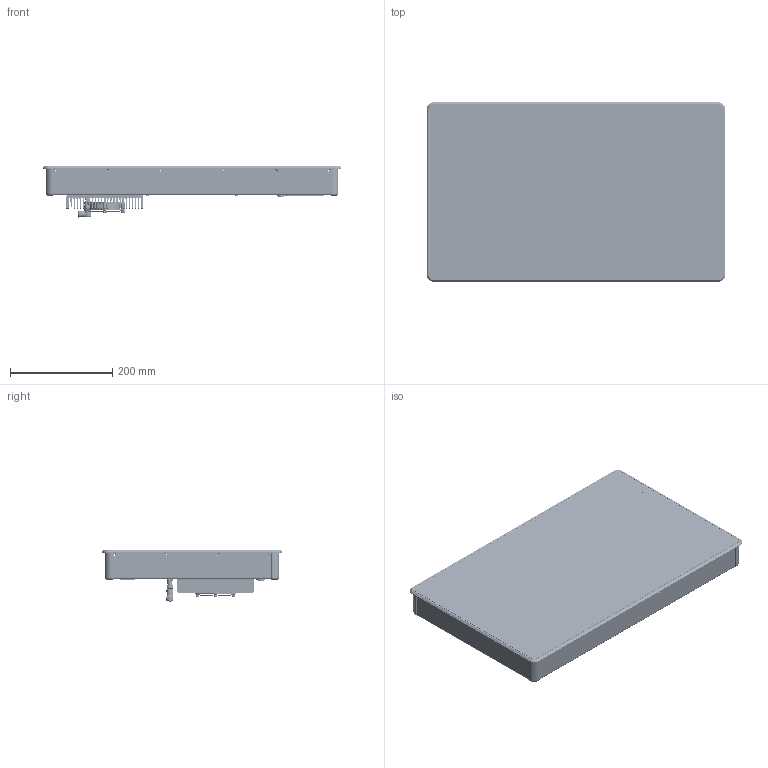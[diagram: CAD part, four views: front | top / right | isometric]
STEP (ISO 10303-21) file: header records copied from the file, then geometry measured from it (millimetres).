
FILE_DESCRIPTION(/* description */ (''),/* implementation_level */ '2;1');
FILE_NAME(/* name */ 'D:\Modelle vereinfacht\notion.D\notion.D3\778-41957-00\778-41957-00_EXTERN.stp',/* time_stamp */ '2025-05-26T13:02:29+02:00',/* author */ ('Blessing'),/* organization */ (''),/* preprocessor_version */ 'ST-DEVELOPER v18.1',/* originating_system */ 'Autodesk Inventor 2021',/* authorisation */ '');
FILE_SCHEMA (('AUTOMOTIVE_DESIGN { 1 0 10303 214 3 1 1 }'));
Products named in the file (4): Baugruppe1; 778-41957-00_Standard; 64-025-080_IPT_000; 778-90171_IAM_000_Shrinkwrap_1
Assembly tree (3 placements, depth 2):
  Baugruppe1
    778-41957-00_Standard
    64-025-080_IPT_000
    778-90171_IAM_000_Shrinkwrap_1
Bounding box: 584.4 x 352 x 100.7 mm (x, y, z)
Volume: 10695339.4 mm3; surface area: 1063272.2 mm2
Topology: 12 solids, 92 shells, 10040 faces, 27713 edges, 17955 vertices
Faces by surface type: plane 5814, cylinder 2487, bspline 1153, cone 471, torus 90, sphere 25
Full cylindrical faces by diameter (mm): 0.457 x1, 1 x3, 1.1 x3, 1.2 x30, 1.4 x3, 2.156 x2, 2.2 x2, 2.459 x28, 2.5 x2, 2.794 x2, 2.8 x6, 2.9 x2, 2.91 x3, 3 x29, 3.01 x1, 3.2 x2, 3.242 x18, 3.5 x34, 3.8 x2, 4 x14, 4.1 x2, 4.22 x8, 4.3 x12, 4.7 x2, 4.767 x6, 4.8 x2, 4.917 x4, 5 x7, 5.1 x2, 5.2 x7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
Entity records: 376426 total; most frequent: CARTESIAN_POINT 117728, ORIENTED_EDGE 55038, DIRECTION 46940, EDGE_CURVE 27666, LINE 18734, VECTOR 18734, VERTEX_POINT 17963, AXIS2_PLACEMENT_3D 14103
